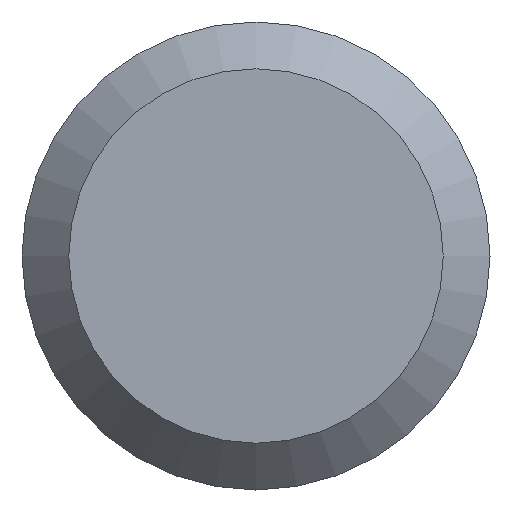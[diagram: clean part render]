
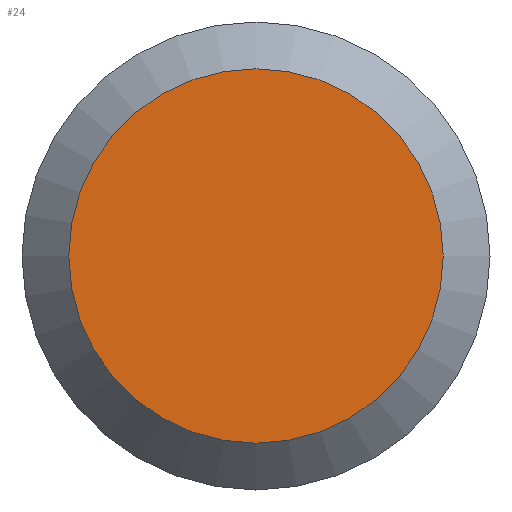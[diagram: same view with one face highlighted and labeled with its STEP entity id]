
A CAD part, left-side view. The second image highlights one B-rep face of the part: STEP entity #24.
In plain terms, the highlighted planar face has unit normal (-1, 0, 0).
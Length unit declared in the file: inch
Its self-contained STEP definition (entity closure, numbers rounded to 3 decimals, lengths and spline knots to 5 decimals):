
#17 = EDGE_CURVE ( 'NONE', #101, #101, #156, .T. ) ;
#21 = FACE_OUTER_BOUND ( 'NONE', #104, .T. ) ;
#24 = ADVANCED_FACE ( 'NONE', ( #21 ), #121, .F. ) ;
#40 = ORIENTED_EDGE ( 'NONE', *, *, #17, .T. ) ;
#94 = DIRECTION ( 'NONE',  ( -1., 0., 0. ) ) ;
#101 = VERTEX_POINT ( 'NONE', #179 ) ;
#104 = EDGE_LOOP ( 'NONE', ( #40 ) ) ;
#121 = PLANE ( 'NONE',  #136 ) ;
#127 = AXIS2_PLACEMENT_3D ( 'NONE', #128, #94, #172 ) ;
#128 = CARTESIAN_POINT ( 'NONE',  ( 0., 0., 0. ) ) ;
#136 = AXIS2_PLACEMENT_3D ( 'NONE', #171, #178, #185 ) ;
#156 = CIRCLE ( 'NONE', #127, 0.0774 ) ;
#171 = CARTESIAN_POINT ( 'NONE',  ( 0., 0.09675, 0. ) ) ;
#172 = DIRECTION ( 'NONE',  ( 0., 0., -1. ) ) ;
#178 = DIRECTION ( 'NONE',  ( 1., 0., 0. ) ) ;
#179 = CARTESIAN_POINT ( 'NONE',  ( 0., 0., -0.0774 ) ) ;
#185 = DIRECTION ( 'NONE',  ( 0., 0., -1. ) ) ;
